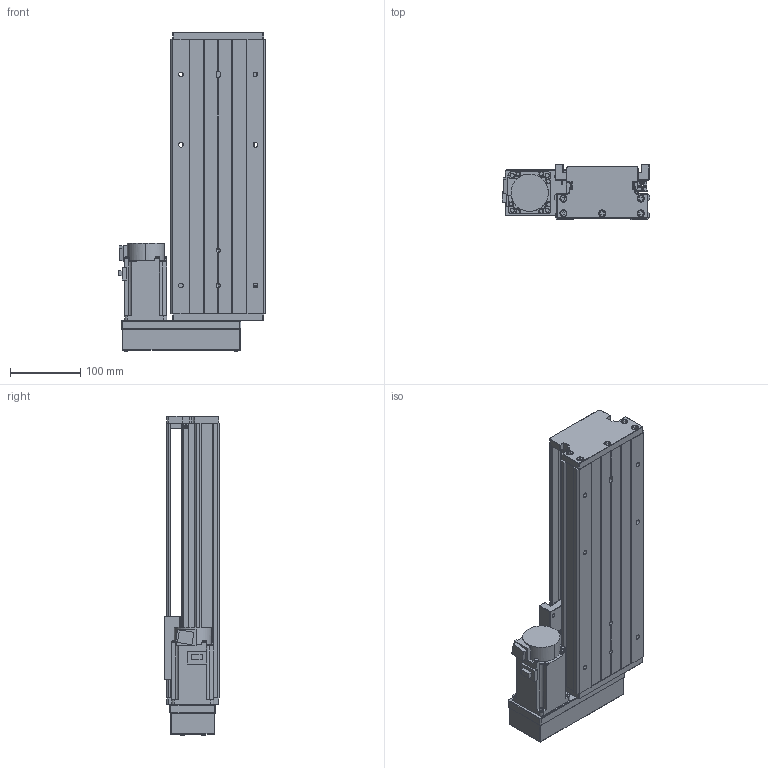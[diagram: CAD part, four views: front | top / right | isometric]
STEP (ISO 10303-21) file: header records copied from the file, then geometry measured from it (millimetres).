
FILE_DESCRIPTION (( 'STEP AP203' ), '1' );
FILE_NAME ('KTH130-250-BL-M40-C4.step', '2023-06-30T03:58:04', ( '微软用户' ), ( '微软中国' ), 'SwSTEP 2.0', 'SolidWorks 2020', '' );
FILE_SCHEMA (( 'CONFIG_CONTROL_DESIGN' ));
Length unit declared in the file: millimetre
Products named in the file (19): CTHA60-017; HG-KN43J-S100; KTH130-002_KTH130-002; EE_SX911P_R; GBT 70.2-M4¡Á35_M4¡Á35; KTH130-004; CTHA60-016; GTH14-015-2_CTHA86-015-2; KTH130-005; GBT 70.1-M3℅5; GTH14-033; GB1155-6X6; GBT77-2000 M3×3; KTH130-250-BL-M40-C4; GBT70.1 M5℅16; す晦芛蹟隊 M3℅5; GBT 70.2-M3¡Á5_M3¡Á6; GBT 70.3-M3℅8; GTH14-001_250
Assembly tree (53 placements, depth 2):
  KTH130-250-BL-M40-C4
    GTH14-001_250
    KTH130-002_KTH130-002
    KTH130-004
    KTH130-005
    GB1155-6X6  x2
    GBT70.1 M5℅16  x10
    GBT 70.2-M3¡Á5_M3¡Á6  x4
    CTHA60-017  x3
    EE_SX911P_R  x3
    CTHA60-016  x2
    GBT 70.1-M3℅5  x6
    GBT77-2000 M3×3  x6
    す晦芛蹟隊 M3℅5  x2
    GBT 70.3-M3℅8  x4
    HG-KN43J-S100
    GBT 70.2-M4¡Á35_M4¡Á35  x4
    GTH14-015-2_CTHA86-015-2
    GTH14-033
Bounding box: 209.3 x 78 x 454.2 mm (x, y, z)
Volume: 2851781 mm3; surface area: 513053.6 mm2
Topology: 56 solids, 56 shells, 2203 faces, 5318 edges, 3310 vertices
Faces by surface type: plane 1193, cylinder 596, cone 290, torus 100, sphere 24
Entity records: 39942 total; most frequent: CARTESIAN_POINT 8534, DIRECTION 5919, ORIENTED_EDGE 5836, EDGE_CURVE 2918, AXIS2_PLACEMENT_3D 2026, VECTOR 1867, LINE 1867, VERTEX_POINT 1863
